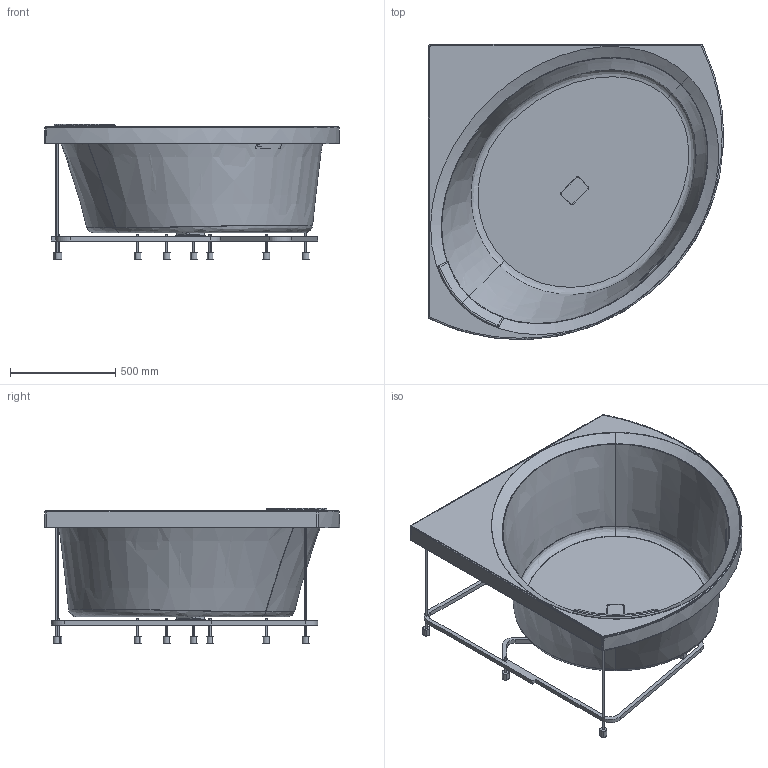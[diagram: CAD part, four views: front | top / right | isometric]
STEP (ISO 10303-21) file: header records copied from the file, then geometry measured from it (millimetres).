
FILE_DESCRIPTION(('STEP AP203'),'2;1');
FILE_NAME('DIV2140140-A0.stp','2016-02-24T17:35:56',(''),(''),'2014.1.117','THINKDESIGN','');
FILE_SCHEMA(('CONFIG_CONTROL_DESIGN'));
Length unit declared in the file: millimetre
Bounding box: 1399.06 x 1399.06 x 640.8 mm (x, y, z)
Volume: 13960975.9 mm3; surface area: 7732258.3 mm2
Topology: 5 solids, 5 shells, 238 faces, 546 edges, 342 vertices
Faces by surface type: cylinder 94, plane 85, bspline 59
Entity records: 14304 total; most frequent: CARTESIAN_POINT 9088, ORIENTED_EDGE 1076, DIRECTION 988, EDGE_CURVE 538, AXIS2_PLACEMENT_3D 375, VERTEX_POINT 342, EDGE_LOOP 274, VECTOR 238
